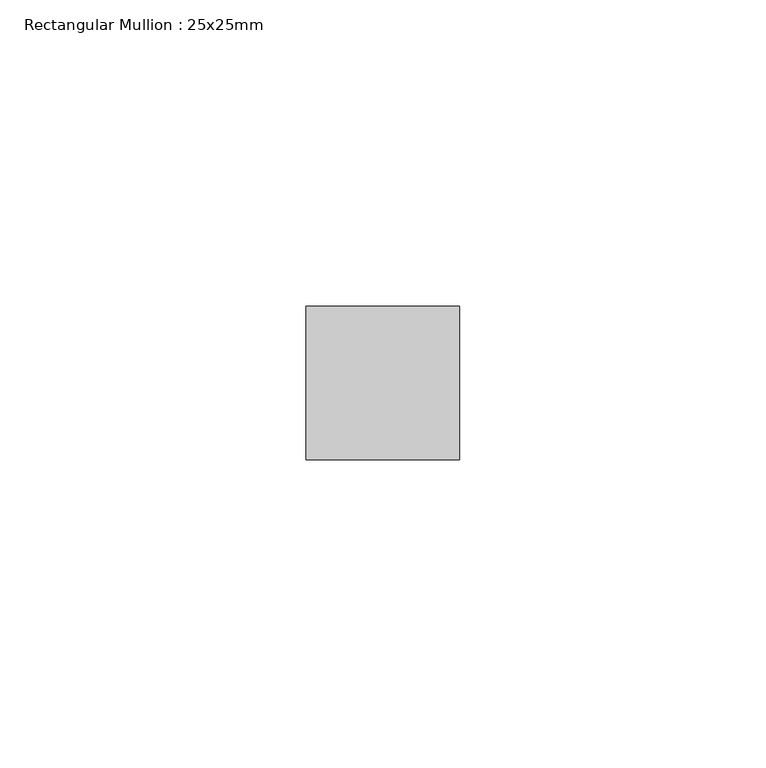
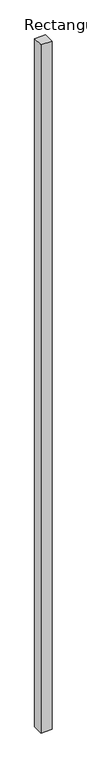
"""IFC4 building model written with IfcOpenShell, lengths in millimetres: member geometry, Rectangular Mullion : 25x25mm."""

from ifc_helpers import new_model, si_unit, frame, origin, place, context, project, spatial, polyline, outline, extrude, source, transform, mapped, element, save


def rectangular_mullion_25x25mm_4133c801(model_context):
    return source(origin(), model_context, "Body", "SweptSolid", [
        extrude(outline(polyline([(12.5, 0.5), (12.5, -24.5), (-12.5, -24.5), (-12.5, 0.5), (12.5, 0.5)])), frame((0.0, 0.0, -1647.5), z_axis=(0.0, 0.0, 1.0), x_axis=(1.0, 0.0, 0.0)), (0.0, 0.0, 1.0), 1647.5),
    ])


if __name__ == "__main__":
    model = new_model("IFC4")
    model_context = context("Model", 3, world=origin())
    ifc_project = project(units=[si_unit("LENGTHUNIT", "METRE", prefix="MILLI")], contexts=[model_context])
    site = spatial("IfcSite", under=ifc_project)
    building = spatial("IfcBuilding", under=site)
    placement = place(None, origin())
    rectangular_mullion_25x25mm_shape = rectangular_mullion_25x25mm_4133c801(model_context)
    element("IfcMember", 1, ObjectType="Rectangular Mullion : 25x25mm", at=placement, inside=building, context=model_context, shape_type="MappedRepresentation", body=[
        mapped(rectangular_mullion_25x25mm_shape, transform((0.0, 0.0, 0.0), x_axis=(1.0, 0.0, 0.0), y_axis=(0.0, 1.0, 0.0), z_axis=(0.0, 0.0, 1.0))),
    ])
    save(model, "model.ifc")
